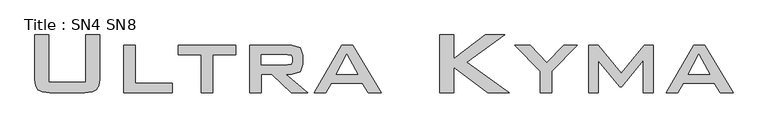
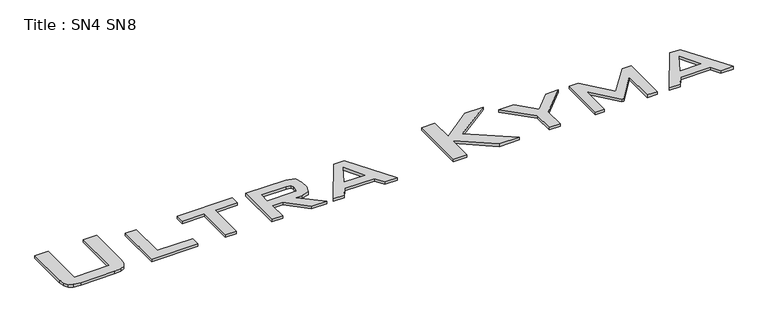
"""IFC4 building model written with IfcOpenShell, lengths in millimetres: flow terminal geometry, Title : SN4 SN8."""

from ifc_helpers import new_model, si_unit, origin, origin_with_axes, place, context, project, spatial, polyline, outline, extrude, source, transform, mapped, element, save


def title_sn4_sn8_1aacb881(model_context):
    return source(origin(), model_context, "Body", "SweptSolid", [
        extrude(outline(polyline([(-574.1793183, 50.9102493), (-574.1793183, -31.8361551), (-509.5967588, -31.8361551), (-509.5967588, 50.9102493), (-485.378299, 50.9102493), (-485.378299, -26.9167805), (-486.7066878, -38.178522), (-490.6918543, -45.1594615), (-498.4690387, -48.7898654), (-511.1734814, -50.0), (-572.697199, -50.0), (-585.2912712, -48.7898654), (-593.0526884, -45.1594615), (-597.0615057, -38.178522), (-598.3977782, -26.9167805), (-598.3977782, 50.9102493), (-574.1793183, 50.9102493)])), origin_with_axes(), (0.0, 0.0, 1.0), 5.0),
        extrude(outline(polyline([(-442.9959943, -50.0), (-442.9959943, 32.7464044), (-422.8139444, 32.7464044), (-422.8139444, -33.8543601), (-358.2313849, -33.8543601), (-358.2313849, -50.0), (-442.9959943, -50.0)])), origin_with_axes(), (0.0, 0.0, 1.0), 5.0),
        extrude(outline(polyline([(-287.5942104, 16.6007645), (-287.5942104, -50.0), (-307.7762603, -50.0), (-307.7762603, 16.6007645), (-348.14036, 16.6007645), (-348.14036, 32.7464044), (-247.2301107, 32.7464044), (-247.2301107, 16.6007645), (-287.5942104, 16.6007645)])), origin_with_axes(), (0.0, 0.0, 1.0), 5.0),
        extrude(outline(polyline([(-223.0116509, -50.0), (-223.0116509, 32.7464044), (-148.9056866, 32.7464044), (-134.6048122, 28.6153911), (-130.1742216, 15.1501797), (-130.1742216, -0.2701678), (-134.6048122, -13.6092414), (-148.9056866, -17.7087202), (-160.1319518, -17.7087202), (-121.6599193, -50.0), (-150.1039958, -50.0), (-184.1612049, -17.7087202), (-202.829601, -17.7087202), (-202.829601, -50.0), (-223.0116509, -50.0)]), holes=[polyline([(-157.3884544, 16.6007645), (-202.829601, 16.6007645), (-202.829601, -1.5630804), (-157.3884544, -1.5630804), (-150.2774353, -0.3490039), (-148.3380664, 3.7347077), (-148.3380664, 11.3029764), (-150.2774353, 15.3866881), (-157.3884544, 16.6007645)])]), origin_with_axes(), (0.0, 0.0, 1.0), 5.0),
        extrude(outline(polyline([(-109.9921717, -50.0), (-61.4291142, 32.7464044), (-42.2561669, 32.7464044), (7.0637174, -50.0), (-15.3257441, -50.0), (-25.6375102, -33.8543601), (-79.7506314, -33.8543601), (-90.0623975, -50.0), (-109.9921717, -50.0)]), holes=[polyline([(-71.2678635, -17.7087202), (-33.7418646, -17.7087202), (-52.8202086, 17.4521947), (-71.2678635, -17.7087202)])]), origin_with_axes(), (0.0, 0.0, 1.0), 5.0),
        extrude(outline(polyline([(109.9921717, -50.0), (109.9921717, 50.9102493), (134.2106315, 50.9102493), (134.2106315, 8.8117547), (189.458993, 50.9102493), (223.0116509, 50.9102493), (157.010041, 3.3562943), (231.0844708, -50.0), (193.8738164, -50.0), (134.2106315, -5.5994903), (134.2106315, -50.0), (109.9921717, -50.0)])), origin_with_axes(), (0.0, 0.0, 1.0), 5.0),
        extrude(outline(polyline([(285.5760054, -50.0), (285.5760054, -12.82088), (241.1754957, 32.7464044), (268.0428496, 32.7464044), (297.1491496, 1.874175), (326.7284665, 32.7464044), (350.158565, 32.7464044), (305.7580553, -12.4424666), (305.7580553, -50.0), (285.5760054, -50.0)])), origin_with_axes(), (0.0, 0.0, 1.0), 5.0),
        extrude(outline(polyline([(370.3406148, -50.0), (370.3406148, 32.7464044), (386.4862547, 32.7464044), (427.1972334, -16.3527388), (467.2459886, 32.7464044), (483.360094, 32.7464044), (483.360094, -50.0), (465.1962491, -50.0), (465.1962491, 6.9512219), (428.0486636, -40.0666473), (424.106857, -40.0666473), (386.4862547, 5.5952405), (386.4862547, -50.0), (370.3406148, -50.0)])), origin_with_axes(), (0.0, 0.0, 1.0), 5.0),
        extrude(outline(polyline([(505.5603488, -50.0), (554.1234063, 32.7464044), (573.2963537, 32.7464044), (622.616238, -50.0), (600.2267764, -50.0), (589.9150103, -33.8543601), (535.8018892, -33.8543601), (525.4901231, -50.0), (505.5603488, -50.0)]), holes=[polyline([(544.284657, -17.7087202), (581.8106559, -17.7087202), (562.7323119, 17.4521947), (544.284657, -17.7087202)])]), origin_with_axes(), (0.0, 0.0, 1.0), 5.0),
    ])


if __name__ == "__main__":
    model = new_model("IFC4")
    model_context = context("Model", 3, world=origin())
    ifc_project = project(units=[si_unit("LENGTHUNIT", "METRE", prefix="MILLI")], contexts=[model_context])
    site = spatial("IfcSite", under=ifc_project)
    building = spatial("IfcBuilding", under=site)
    placement = place(None, origin())
    title_sn4_sn8_shape = title_sn4_sn8_1aacb881(model_context)
    element("IfcFlowTerminal", 1, ObjectType="Title : SN4 SN8", at=placement, inside=building, context=model_context, shape_type="MappedRepresentation", body=[
        mapped(title_sn4_sn8_shape, transform((0.0, 0.0, 0.0), x_axis=(1.0, 0.0, 0.0), y_axis=(0.0, 1.0, 0.0), z_axis=(0.0, 0.0, 1.0))),
    ])
    save(model, "model.ifc")
